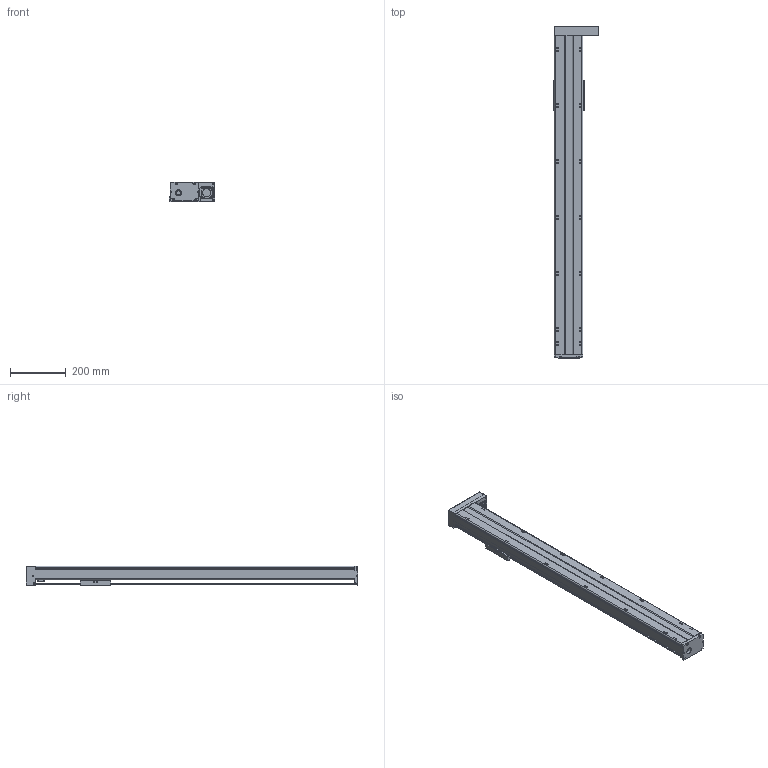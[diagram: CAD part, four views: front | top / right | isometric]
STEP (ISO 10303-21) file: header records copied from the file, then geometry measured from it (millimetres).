
FILE_DESCRIPTION(/* description */ (''),/* implementation_level */ '2;1');
FILE_NAME(/* name */ 'TKA100-FR-950_asm1.stp',/* time_stamp */ '2016-05-17T15:50:04+08:00',/* author */ (''),/* organization */ (''),/* preprocessor_version */ 'ST-DEVELOPER v15',/* originating_system */ 'SIEMENS PLM Software NX 8.5',/* authorisation */ '');
FILE_SCHEMA (('AUTOMOTIVE_DESIGN { 1 0 10303 214 3 1 1 1 }'));
Length unit declared in the file: millimetre
Products named in the file (3): 200-2; 200-1; TKA100-FR-950_asm1
Assembly tree (2 placements, depth 2):
  TKA100-FR-950_asm1
    200-1
    200-2
Bounding box: 162 x 1186 x 71 mm (x, y, z)
Volume: 2444485.1 mm3; surface area: 833271.5 mm2
Topology: 2 solids, 16 shells, 818 faces, 2136 edges, 1395 vertices
Faces by surface type: plane 326, cylinder 313, cone 125, torus 28, bspline 26
Full cylindrical faces by diameter (mm): 2.5 x6, 2.6 x8, 3.3 x11, 3.4 x4, 3.8 x8, 4.2 x23, 4.3 x4, 4.5 x6, 5 x2, 5.5 x22, 6.6 x4, 8 x4, 9 x6, 10 x15, 11 x4, 12 x6, 15.3 x1, 16 x1, 22 x1, 24 x1, 28 x2, 30 x1, 33 x1
Entity records: 29638 total; most frequent: CARTESIAN_POINT 10738, DIRECTION 3879, ORIENTED_EDGE 3648, EDGE_CURVE 1824, AXIS2_PLACEMENT_3D 1539, VERTEX_POINT 1302, EDGE_LOOP 1141, ADVANCED_FACE 818
